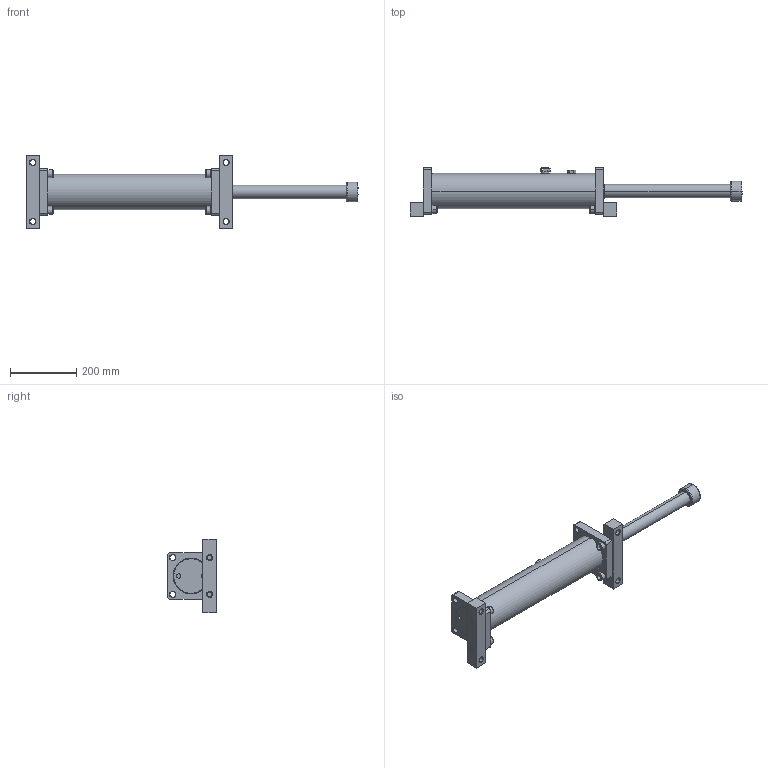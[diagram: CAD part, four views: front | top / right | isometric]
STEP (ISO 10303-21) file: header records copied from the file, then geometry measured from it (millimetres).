
FILE_DESCRIPTION (( 'STEP AP214' ), '1' );
FILE_NAME ('LDD2.0X14.STEP', '2019-01-16T06:08:54', ( 'user' ), ( 'Microsoft' ), 'SwSTEP 2.0', 'SolidWorks 2016', '' );
FILE_SCHEMA (( 'AUTOMOTIVE_DESIGN' ));
Length unit declared in the file: inch
Products named in the file (1): LDD2.0X14
Bounding box: 1000 x 145.5 x 220 mm (x, y, z)
Surface area: 447527.5 mm2 (no closed solid volume)
Topology: 0 solids, 25 shells, 266 faces, 701 edges, 468 vertices
Faces by surface type: plane 99, cylinder 79, cone 58, bspline 30
Entity records: 14162 total; most frequent: CARTESIAN_POINT 7654, DIRECTION 1363, ORIENTED_EDGE 1249, EDGE_CURVE 701, AXIS2_PLACEMENT_3D 530, VERTEX_POINT 468, EDGE_LOOP 325, VECTOR 303
